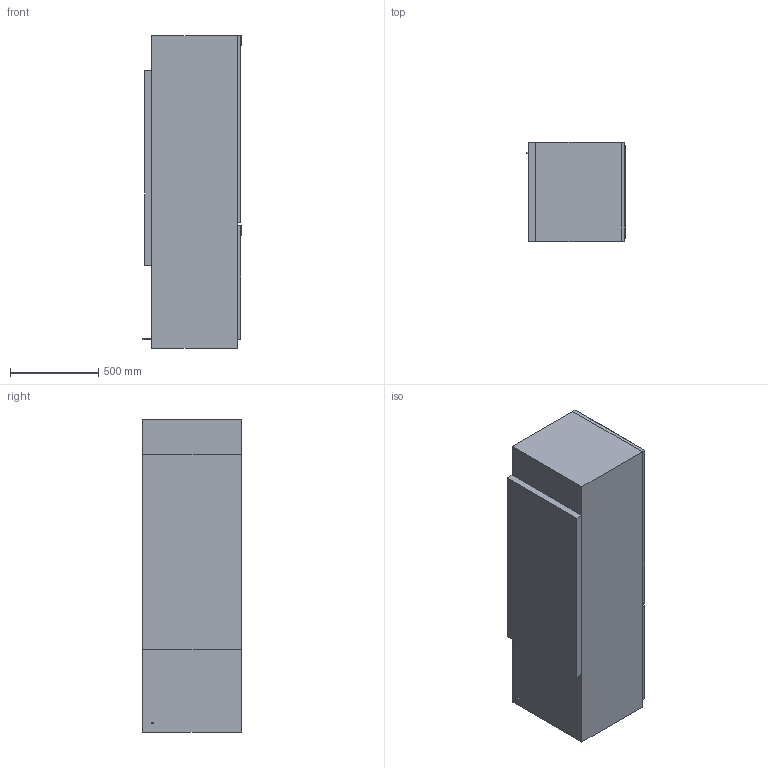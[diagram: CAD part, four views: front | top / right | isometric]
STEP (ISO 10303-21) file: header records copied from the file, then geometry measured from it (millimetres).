
FILE_DESCRIPTION(/* description */ (''),/* implementation_level */ '2;1');
FILE_NAME(/* name */ 'KFNS37432iD',/* time_stamp */ '2014-06-06T14:40:40+02:00',/* author */ (''),/* organization */ (''),/* preprocessor_version */ 'ST-DEVELOPER v10',/* originating_system */ '',/* authorisation */ '');
FILE_SCHEMA (('AUTOMOTIVE_DESIGN_CC2'));
Length unit declared in the file: millimetre
Products named in the file (1): 1
Bounding box: 555.04 x 559 x 1770.02 mm (x, y, z)
Volume: 522594001.6 mm3; surface area: 7717848.1 mm2
Topology: 7 solids, 7 shells, 62 faces, 146 edges, 94 vertices
Faces by surface type: bspline 62
Entity records: 1917 total; most frequent: CARTESIAN_POINT 917, ORIENTED_EDGE 284, EDGE_CURVE 142, B_SPLINE_CURVE_WITH_KNOTS 142, VERTEX_POINT 94, ADVANCED_FACE 62, FACE_OUTER_BOUND 62, EDGE_LOOP 62
